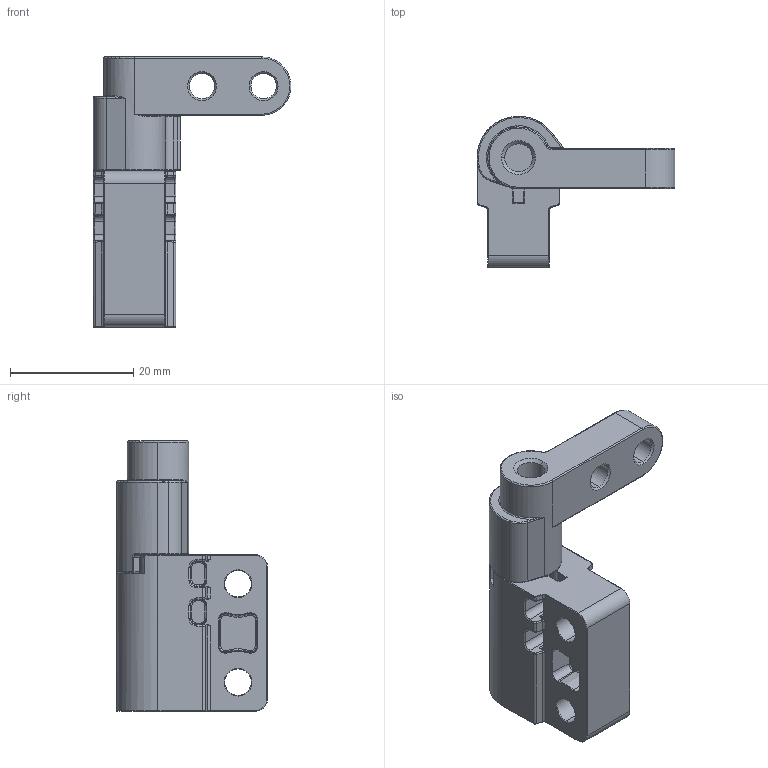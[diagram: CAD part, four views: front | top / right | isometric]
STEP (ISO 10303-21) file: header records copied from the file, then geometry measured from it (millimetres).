
FILE_DESCRIPTION (( 'STEP AP203' ), '1' );
FILE_NAME ('CL239-4-Y.STEP', '2017-07-28T06:17:15', ( 'SkyUser' ), ( 'China' ), 'SwSTEP 2.0', 'SolidWorks 2014', '' );
FILE_SCHEMA (( 'CONFIG_CONTROL_DESIGN' ));
Length unit declared in the file: millimetre
Products named in the file (4): 雄蝓蟈衵; 种赽; CL239-4-Y; 隅蝓蟈衵
Assembly tree (3 placements, depth 2):
  CL239-4-Y
    隅蝓蟈衵
    雄蝓蟈衵
    种赽
Bounding box: 32.15 x 24.55 x 43.9 mm (x, y, z)
Volume: 8110.9 mm3; surface area: 6164.1 mm2
Topology: 3 solids, 3 shells, 636 faces, 1558 edges, 921 vertices
Faces by surface type: plane 233, cylinder 183, torus 112, cone 54, bspline 49, sphere 5
Entity records: 20133 total; most frequent: CARTESIAN_POINT 4956, DIRECTION 3232, ORIENTED_EDGE 3080, EDGE_CURVE 1540, AXIS2_PLACEMENT_3D 1279, VERTEX_POINT 919, CIRCLE 686, LINE 674
